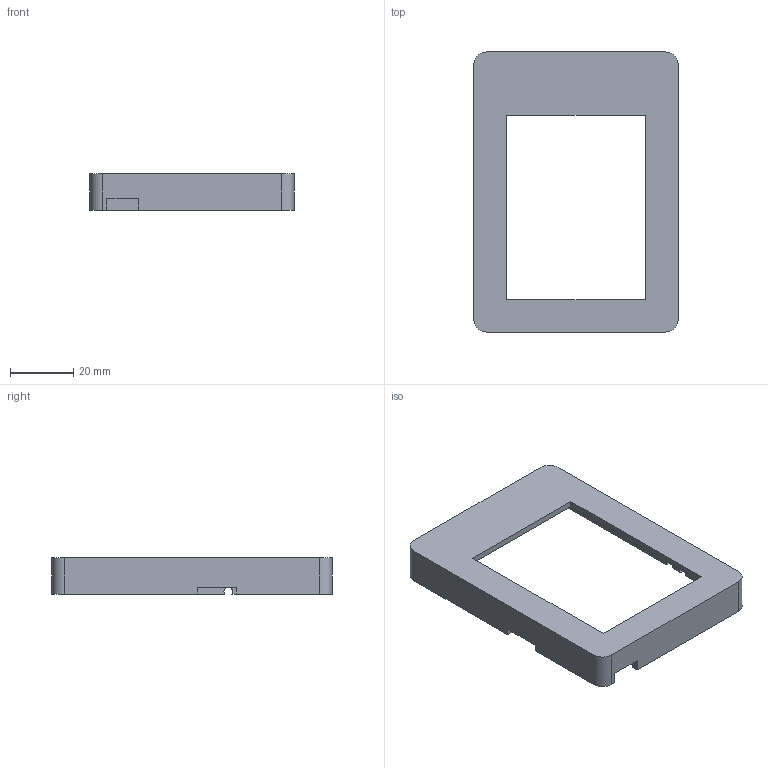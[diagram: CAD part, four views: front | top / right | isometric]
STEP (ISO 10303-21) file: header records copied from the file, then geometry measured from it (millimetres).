
FILE_DESCRIPTION(('Open CASCADE Model'),'2;1');
FILE_NAME('Open CASCADE Shape Model','2026-09-23T04:34:09',('Author'),( 'Open CASCADE'),'Open CASCADE STEP processor 7.9','Open CASCADE 7.9' ,'Unknown');
FILE_SCHEMA(('AUTOMOTIVE_DESIGN { 1 0 10303 214 1 1 1 1 }'));
Length unit declared in the file: millimetre
Products named in the file (1): Open CASCADE STEP translator 7.9 9
Bounding box: 64.8 x 88.8 x 11.5 mm (x, y, z)
Volume: 11743.8 mm3; surface area: 12876.2 mm2
Topology: 1 solids, 1 shells, 32 faces, 90 edges, 60 vertices
Faces by surface type: plane 24, cylinder 8
Full cylindrical faces by diameter (mm): 1.5 x2
Entity records: 2193 total; most frequent: CARTESIAN_POINT 473, DIRECTION 287, LINE 182, VECTOR 182, ORIENTED_EDGE 180, PCURVE 180, DEFINITIONAL_REPRESENTATION 180, EDGE_CURVE 90
